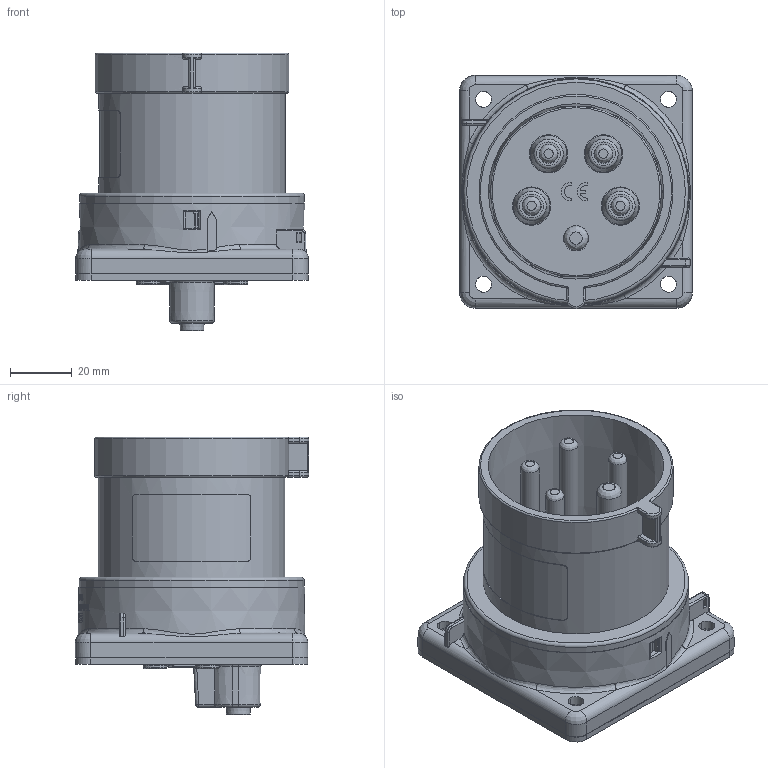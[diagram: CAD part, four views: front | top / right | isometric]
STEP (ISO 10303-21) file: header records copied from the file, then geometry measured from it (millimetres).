
FILE_DESCRIPTION(/* description */ (''),/* implementation_level */ '2;1');
FILE_NAME(/* name */ '4002138.stp',/* time_stamp */ '2019-10-16T08:17:14+02:00',/* author */ (''),/* organization */ (''),/* preprocessor_version */ 'ST-DEVELOPER v16.7',/* originating_system */ 'SIEMENS PLM Software NX 1884',/* authorisation */ '');
FILE_SCHEMA (('AUTOMOTIVE_DESIGN { 1 0 10303 214 3 1 1 1 }'));
Products named in the file (1): BSOM281C0A08gh6r
Bounding box: 75.5 x 75.75 x 90.2 mm (x, y, z)
Volume: 103185.1 mm3; surface area: 100384.8 mm2
Topology: 19 solids, 19 shells, 4278 faces, 10995 edges, 6741 vertices
Faces by surface type: plane 1370, cylinder 1053, bspline 751, extrusion 456, torus 294, cone 263, sphere 90, revolution 1
Full cylindrical faces by diameter (mm): 1 x2, 2.25 x2, 2.8 x8, 3 x4, 3.2 x2, 3.5 x6, 4.643 x1, 4.7 x5, 4.8 x5, 5 x1, 5.4 x4, 5.7 x4, 5.8 x6, 6 x4, 6.2 x4, 8 x5, 8.2 x1, 9 x1, 54.2 x1, 55.5 x1, 60.5 x1, 73 x1
Entity records: 188490 total; most frequent: CARTESIAN_POINT 94400, ORIENTED_EDGE 21084, DIRECTION 16682, EDGE_CURVE 10542, VERTEX_POINT 6646, AXIS2_PLACEMENT_3D 6253, EDGE_LOOP 4691, ADVANCED_FACE 4276
